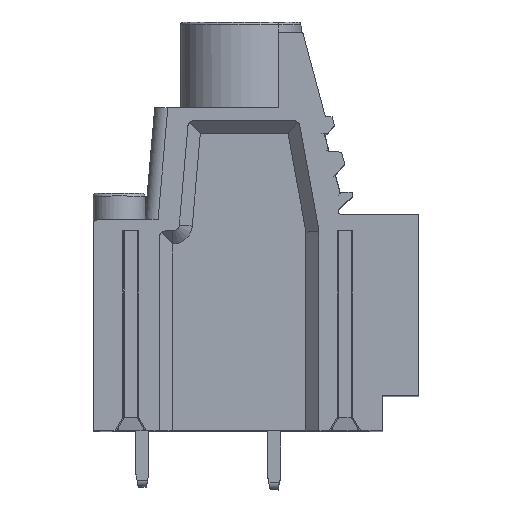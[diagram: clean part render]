
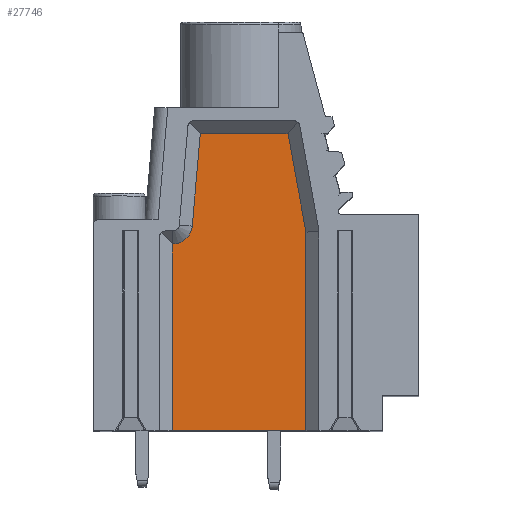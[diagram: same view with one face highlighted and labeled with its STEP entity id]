
A CAD part, top view. The second image highlights one B-rep face of the part: STEP entity #27746.
In plain terms, the highlighted planar face has unit normal (0, 0, 1).
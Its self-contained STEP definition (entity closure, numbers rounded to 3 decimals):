
#11298=CARTESIAN_POINT('',(6.21,15.95,
-1.764));
#11299=DIRECTION('',(0.,0.,1.));
#11300=DIRECTION('',(0.001,-1.,0.));
#11301=AXIS2_PLACEMENT_3D('',#11298,#11299,#11300);
#11303=DIRECTION('',(0.,-1.,0.));
#11304=VECTOR('',#11303,15.31);
#11305=CARTESIAN_POINT('',(16.468,15.36,
-1.764));
#11306=LINE('',#11305,#11304);
#11307=DIRECTION('',(-1.,0.,0.));
#11308=VECTOR('',#11307,10.3);
#11309=CARTESIAN_POINT('',(16.468,0.05,
-1.764));
#11310=LINE('',#11309,#11308);
#11315=DIRECTION('',(0.,-1.,0.));
#11316=VECTOR('',#11315,14.4);
#11317=CARTESIAN_POINT('',(6.168,14.45,
-1.764));
#11318=LINE('',#11317,#11316);
#11338=DIRECTION('',(-1.,0.001,0.));
#11339=VECTOR('',#11338,0.042);
#11340=CARTESIAN_POINT('',(6.21,14.45,
-1.764));
#11341=LINE('',#11340,#11339);
#11350=DIRECTION('',(-0.087,-0.996,0.));
#11351=VECTOR('',#11350,7.158);
#11352=CARTESIAN_POINT('',(8.328,22.95,
-1.764));
#11353=LINE('',#11352,#11351);
#11376=DIRECTION('',(-1.,0.,0.));
#11377=VECTOR('',#11376,6.756);
#11378=CARTESIAN_POINT('',(15.084,22.95,
-1.764));
#11379=LINE('',#11378,#11377);
#11406=DIRECTION('',(-0.179,0.984,0.));
#11407=VECTOR('',#11406,7.716);
#11408=CARTESIAN_POINT('',(16.468,15.36,
-1.764));
#11409=LINE('',#11408,#11407);
#12001=CARTESIAN_POINT('',(6.168,0.05,
-1.764));
#12002=VERTEX_POINT('',#12001);
#12003=CARTESIAN_POINT('',(16.468,0.05,
-1.764));
#12004=VERTEX_POINT('',#12003);
#13989=CARTESIAN_POINT('',(16.468,15.36,
-1.764));
#13990=VERTEX_POINT('',#13989);
#13991=CARTESIAN_POINT('',(6.168,14.45,
-1.764));
#13992=VERTEX_POINT('',#13991);
#13993=CARTESIAN_POINT('',(6.21,14.45,
-1.764));
#13994=VERTEX_POINT('',#13993);
#13995=CARTESIAN_POINT('',(7.704,15.819,
-1.764));
#13996=VERTEX_POINT('',#13995);
#13997=CARTESIAN_POINT('',(8.328,22.95,
-1.764));
#13998=VERTEX_POINT('',#13997);
#13999=CARTESIAN_POINT('',(15.084,22.95,
-1.764));
#14000=VERTEX_POINT('',#13999);
#27725=CARTESIAN_POINT('',(11.318,11.5,
-1.764));
#27726=DIRECTION('',(0.,0.,1.));
#27727=DIRECTION('',(1.,0.,0.));
#27728=AXIS2_PLACEMENT_3D('',#27725,#27726,#27727);
#27729=PLANE('',#27728);
#27731=ORIENTED_EDGE('',*,*,#27730,.F.);
#27733=ORIENTED_EDGE('',*,*,#27732,.F.);
#27735=ORIENTED_EDGE('',*,*,#27734,.T.);
#27737=ORIENTED_EDGE('',*,*,#27736,.F.);
#27739=ORIENTED_EDGE('',*,*,#27738,.F.);
#27741=ORIENTED_EDGE('',*,*,#27740,.F.);
#27742=ORIENTED_EDGE('',*,*,#27716,.T.);
#27743=ORIENTED_EDGE('',*,*,#16544,.T.);
#27744=EDGE_LOOP('',(#27731,#27733,#27735,#27737,#27739,#27741,#27742,#27743));
#27745=FACE_OUTER_BOUND('',#27744,.F.);
#27746=ADVANCED_FACE('',(#27745),#27729,.T.);
#11302=CIRCLE('',#11301,1.5);
#16544=EDGE_CURVE('',#12004,#12002,#11310,.T.);
#27716=EDGE_CURVE('',#13990,#12004,#11306,.T.);
#27730=EDGE_CURVE('',#13992,#12002,#11318,.T.);
#27732=EDGE_CURVE('',#13994,#13992,#11341,.T.);
#27734=EDGE_CURVE('',#13994,#13996,#11302,.T.);
#27736=EDGE_CURVE('',#13998,#13996,#11353,.T.);
#27738=EDGE_CURVE('',#14000,#13998,#11379,.T.);
#27740=EDGE_CURVE('',#13990,#14000,#11409,.T.);
